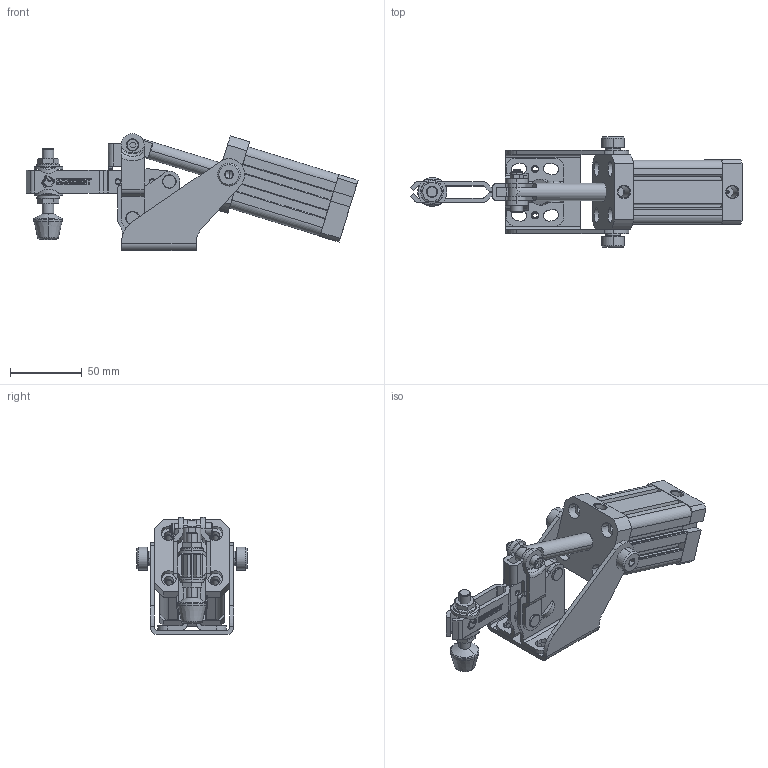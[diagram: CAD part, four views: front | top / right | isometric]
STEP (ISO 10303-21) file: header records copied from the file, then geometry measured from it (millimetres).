
FILE_DESCRIPTION(('STEP AP242'),'1');
FILE_NAME('612-3.stp','2025-01-29T12:19:55',('TraceParts'),('TraceParts S.A.'),'Spatial InterOp 3D',' ',' ');
FILE_SCHEMA(('AP242_MANAGED_MODEL_BASED_3D_ENGINEERING_MIM_LF {1 0 10303 442 1 1 4}'));
Length unit declared in the file: millimetre
Products named in the file (1): 612-3_1
Bounding box: 231.12 x 77 x 81.5 mm (x, y, z)
Volume: 202292 mm3; surface area: 103263.4 mm2
Topology: 10 solids, 18 shells, 1625 faces, 4190 edges, 2652 vertices
Faces by surface type: cylinder 709, plane 498, torus 242, cone 98, bspline 50, sphere 28
Entity records: 67029 total; most frequent: CARTESIAN_POINT 15957, DIRECTION 8872, ORIENTED_EDGE 8322, EDGE_CURVE 4161, AXIS2_PLACEMENT_3D 3529, VERTEX_POINT 2651, CIRCLE 1922, LINE 1814
